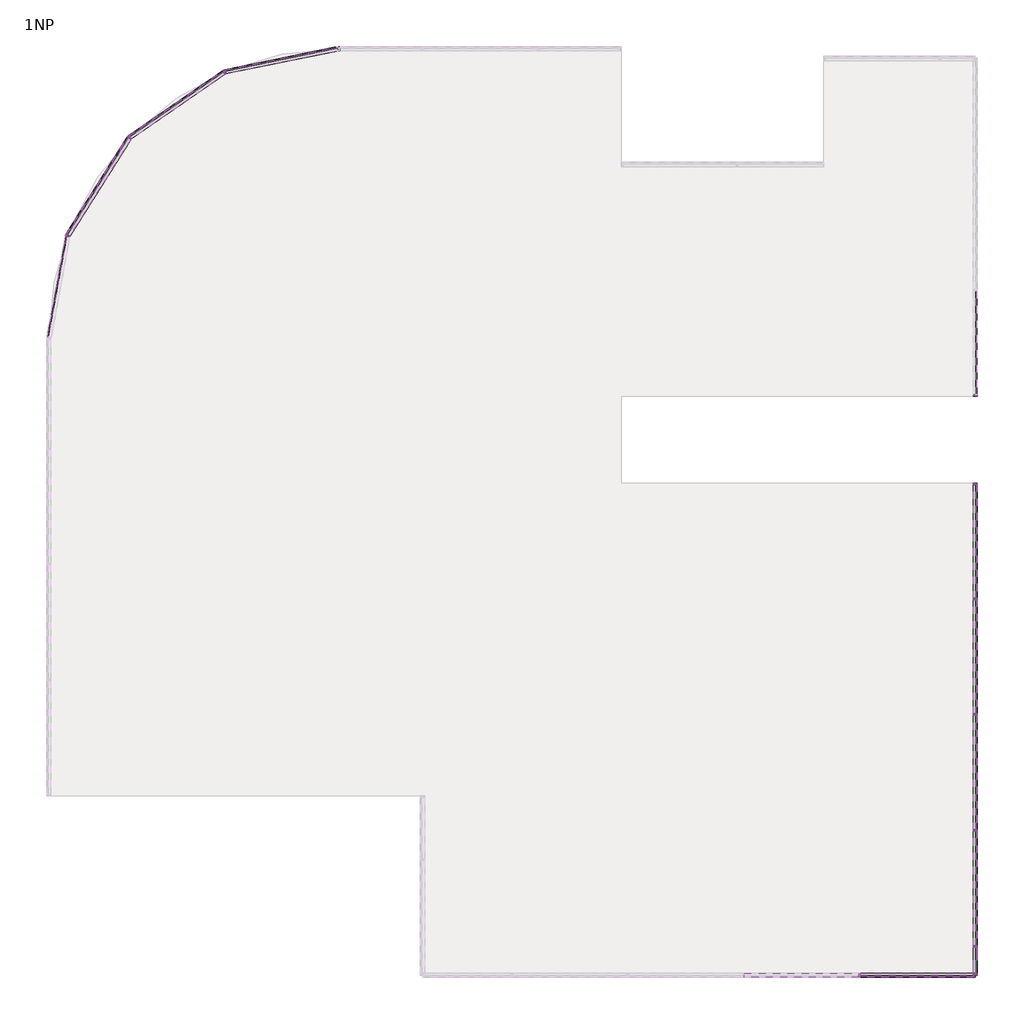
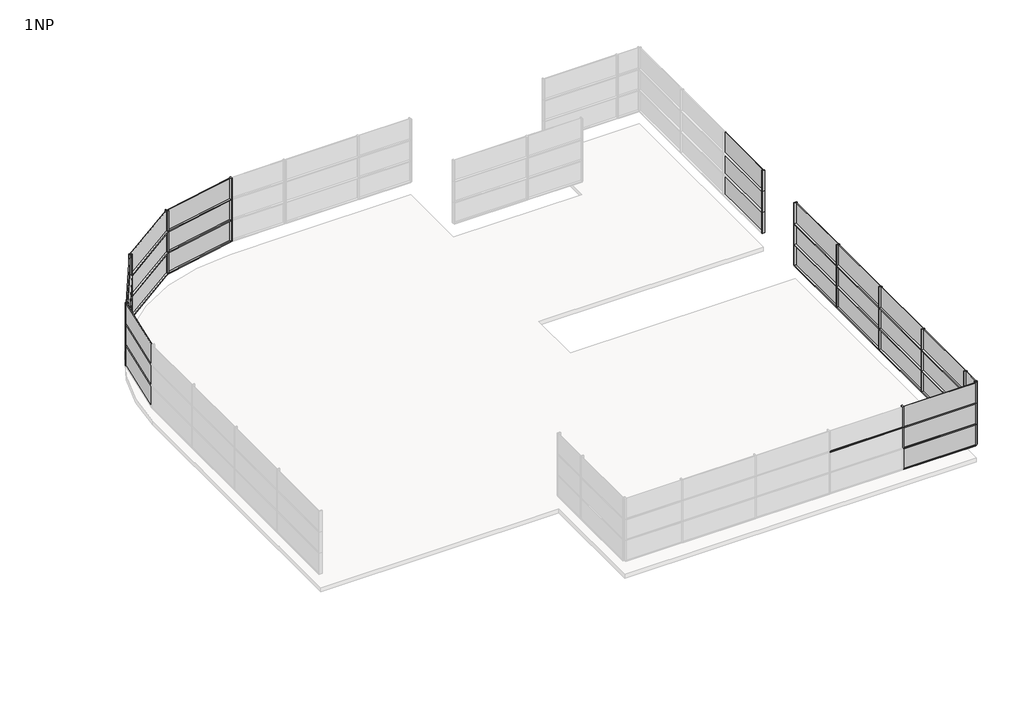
# One storey, part 2 of 3: 66 members, 33 plates.
"""IFC4 building model written with IfcOpenShell, lengths in millimetres."""

from ifc_helpers import new_model, si_unit, origin, place, context, project, spatial, transform, mapped, element, save
from components import rectangular_mullion_50_x_150mm_d99dc9be, rectangular_mullion_50_x_150mm_6588f46c, rectangular_mullion_50_x_150mm_a037c29c, rectangular_mullion_50_x_150mm_c2546fd4, rectangular_mullion_50_x_150mm_116cff39, rectangular_mullion_50_x_150mm_99029072, rectangular_mullion_50_x_150mm_662445cf, system_panel_glazed_8e9402eb, system_panel_glazed_89ac83a7, system_panel_glazed_5566c609, system_panel_glazed_8c18451d, system_panel_glazed_f47374c1, system_panel_glazed_c3dc520e, system_panel_glazed_01c601c5

model = new_model("IFC4")

# Units and contexts
model_context = context("Model", 3, world=origin())
ifc_project = project(units=[si_unit("LENGTHUNIT", "METRE", prefix="MILLI")], contexts=[model_context])

# Site, building, storey
site = spatial("IfcSite", under=ifc_project)
building = spatial("IfcBuilding", under=site)
storey = spatial("IfcBuildingStorey", under=building, Name="1NP", Elevation=4000.0)

# Members
placement = place(None, origin())
rectangular_mullion_50_x_150mm_shape = rectangular_mullion_50_x_150mm_d99dc9be(model_context)
element("IfcMember", 1, ObjectType="Rectangular Mullion : 50 x 150mm", at=placement, inside=storey, context=model_context, shape_type="MappedRepresentation", body=[
    mapped(rectangular_mullion_50_x_150mm_shape, transform((13503.2660975, -10624.0160434, 6000.0), x_axis=(0.0, -1.0, 0.0), y_axis=(1.0, 0.0, 0.0), z_axis=(0.0, 0.0, 1.0))),
])
element("IfcMember", 2, ObjectType="Rectangular Mullion : 50 x 150mm", at=placement, inside=storey, context=model_context, shape_type="MappedRepresentation", body=[
    mapped(rectangular_mullion_50_x_150mm_shape, transform((13503.2660975, -10624.0160434, 7200.0), x_axis=(0.0, -1.0, 0.0), y_axis=(1.0, 0.0, 0.0), z_axis=(0.0, 0.0, 1.0))),
])
element("IfcMember", 3, ObjectType="Rectangular Mullion : 50 x 150mm", at=placement, inside=storey, context=model_context, shape_type="MappedRepresentation", body=[
    mapped(rectangular_mullion_50_x_150mm_shape, transform((13503.2660975, -10624.0160434, 8400.0), x_axis=(0.0, -1.0, 0.0), y_axis=(1.0, 0.0, 0.0), z_axis=(0.0, 0.0, 1.0))),
])
element("IfcMember", 4, ObjectType="Rectangular Mullion : 50 x 150mm", at=placement, inside=storey, context=model_context, shape_type="MappedRepresentation", body=[
    mapped(rectangular_mullion_50_x_150mm_shape, transform((13503.2660975, -14624.0160434, 6000.0), x_axis=(0.0, -1.0, 0.0), y_axis=(1.0, 0.0, 0.0), z_axis=(0.0, 0.0, 1.0))),
])
element("IfcMember", 5, ObjectType="Rectangular Mullion : 50 x 150mm", at=placement, inside=storey, context=model_context, shape_type="MappedRepresentation", body=[
    mapped(rectangular_mullion_50_x_150mm_shape, transform((13503.2660975, -14624.0160434, 7200.0), x_axis=(0.0, -1.0, 0.0), y_axis=(1.0, 0.0, 0.0), z_axis=(0.0, 0.0, 1.0))),
])
element("IfcMember", 6, ObjectType="Rectangular Mullion : 50 x 150mm", at=placement, inside=storey, context=model_context, shape_type="MappedRepresentation", body=[
    mapped(rectangular_mullion_50_x_150mm_shape, transform((13503.2660975, -14624.0160434, 8400.0), x_axis=(0.0, -1.0, 0.0), y_axis=(1.0, 0.0, 0.0), z_axis=(0.0, 0.0, 1.0))),
])
element("IfcMember", 7, ObjectType="Rectangular Mullion : 50 x 150mm", at=placement, inside=storey, context=model_context, shape_type="MappedRepresentation", body=[
    mapped(rectangular_mullion_50_x_150mm_shape, transform((13503.2660975, -18624.0160434, 6000.0), x_axis=(0.0, -1.0, 0.0), y_axis=(1.0, 0.0, 0.0), z_axis=(0.0, 0.0, 1.0))),
])
element("IfcMember", 8, ObjectType="Rectangular Mullion : 50 x 150mm", at=placement, inside=storey, context=model_context, shape_type="MappedRepresentation", body=[
    mapped(rectangular_mullion_50_x_150mm_shape, transform((13503.2660975, -18624.0160434, 7200.0), x_axis=(0.0, -1.0, 0.0), y_axis=(1.0, 0.0, 0.0), z_axis=(0.0, 0.0, 1.0))),
])
element("IfcMember", 9, ObjectType="Rectangular Mullion : 50 x 150mm", at=placement, inside=storey, context=model_context, shape_type="MappedRepresentation", body=[
    mapped(rectangular_mullion_50_x_150mm_shape, transform((13503.2660975, -18624.0160434, 8400.0), x_axis=(0.0, -1.0, 0.0), y_axis=(1.0, 0.0, 0.0), z_axis=(0.0, 0.0, 1.0))),
])
element("IfcMember", 10, ObjectType="Rectangular Mullion : 50 x 150mm", at=placement, inside=storey, context=model_context, shape_type="MappedRepresentation", body=[
    mapped(rectangular_mullion_50_x_150mm_shape, transform((13503.2660975, -22624.0160434, 6000.0), x_axis=(0.0, -1.0, 0.0), y_axis=(1.0, 0.0, 0.0), z_axis=(0.0, 0.0, 1.0))),
])
element("IfcMember", 11, ObjectType="Rectangular Mullion : 50 x 150mm", at=placement, inside=storey, context=model_context, shape_type="MappedRepresentation", body=[
    mapped(rectangular_mullion_50_x_150mm_shape, transform((13503.2660975, -22624.0160434, 7200.0), x_axis=(0.0, -1.0, 0.0), y_axis=(1.0, 0.0, 0.0), z_axis=(0.0, 0.0, 1.0))),
])
element("IfcMember", 12, ObjectType="Rectangular Mullion : 50 x 150mm", at=placement, inside=storey, context=model_context, shape_type="MappedRepresentation", body=[
    mapped(rectangular_mullion_50_x_150mm_shape, transform((13503.2660975, -22624.0160434, 8400.0), x_axis=(0.0, -1.0, 0.0), y_axis=(1.0, 0.0, 0.0), z_axis=(0.0, 0.0, 1.0))),
])
element("IfcMember", 13, ObjectType="Rectangular Mullion : 50 x 150mm", at=placement, inside=storey, context=model_context, shape_type="MappedRepresentation", body=[
    mapped(rectangular_mullion_50_x_150mm_shape, transform((9503.2660975, -23624.0160434, 7200.0), x_axis=(-1.0, 0.0, 0.0), y_axis=(0.0, -1.0, 0.0), z_axis=(0.0, 0.0, 1.0))),
])
element("IfcMember", 14, ObjectType="Rectangular Mullion : 50 x 150mm", at=placement, inside=storey, context=model_context, shape_type="MappedRepresentation", body=[
    mapped(rectangular_mullion_50_x_150mm_shape, transform((9503.2660975, -23624.0160434, 8400.0), x_axis=(-1.0, 0.0, 0.0), y_axis=(0.0, -1.0, 0.0), z_axis=(0.0, 0.0, 1.0))),
])
rectangular_mullion_50_x_150mm_2_shape = rectangular_mullion_50_x_150mm_6588f46c(model_context)
element("IfcMember", 15, ObjectType="Rectangular Mullion : 50 x 150mm", at=placement, inside=storey, context=model_context, shape_type="MappedRepresentation", body=[
    mapped(rectangular_mullion_50_x_150mm_2_shape, transform((13503.2660975, -3624.0160434, 8400.0), x_axis=(0.0, -1.0, 0.0), y_axis=(1.0, 0.0, 0.0), z_axis=(0.0, 0.0, 1.0))),
])
element("IfcMember", 16, ObjectType="Rectangular Mullion : 50 x 150mm", at=placement, inside=storey, context=model_context, shape_type="MappedRepresentation", body=[
    mapped(rectangular_mullion_50_x_150mm_2_shape, transform((13503.2660975, -3624.0160434, 7200.0), x_axis=(0.0, -1.0, 0.0), y_axis=(1.0, 0.0, 0.0), z_axis=(0.0, 0.0, 1.0))),
])
element("IfcMember", 17, ObjectType="Rectangular Mullion : 50 x 150mm", at=placement, inside=storey, context=model_context, shape_type="MappedRepresentation", body=[
    mapped(rectangular_mullion_50_x_150mm_2_shape, transform((13503.2660975, -3624.0160434, 6000.0), x_axis=(0.0, -1.0, 0.0), y_axis=(1.0, 0.0, 0.0), z_axis=(0.0, 0.0, 1.0))),
])
element("IfcMember", 18, ObjectType="Rectangular Mullion : 50 x 150mm", at=placement, inside=storey, context=model_context, shape_type="MappedRepresentation", body=[
    mapped(rectangular_mullion_50_x_150mm_2_shape, transform((13503.2660975, -23624.0160434, 6000.0), x_axis=(0.0, -1.0, 0.0), y_axis=(1.0, 0.0, 0.0), z_axis=(0.0, 0.0, 1.0))),
])
element("IfcMember", 19, ObjectType="Rectangular Mullion : 50 x 150mm", at=placement, inside=storey, context=model_context, shape_type="MappedRepresentation", body=[
    mapped(rectangular_mullion_50_x_150mm_2_shape, transform((13503.2660975, -23624.0160434, 7200.0), x_axis=(0.0, -1.0, 0.0), y_axis=(1.0, 0.0, 0.0), z_axis=(0.0, 0.0, 1.0))),
])
element("IfcMember", 20, ObjectType="Rectangular Mullion : 50 x 150mm", at=placement, inside=storey, context=model_context, shape_type="MappedRepresentation", body=[
    mapped(rectangular_mullion_50_x_150mm_2_shape, transform((13503.2660975, -23624.0160434, 8400.0), x_axis=(0.0, -1.0, 0.0), y_axis=(1.0, 0.0, 0.0), z_axis=(0.0, 0.0, 1.0))),
])
rectangular_mullion_50_x_150mm_3_shape = rectangular_mullion_50_x_150mm_a037c29c(model_context)
element("IfcMember", 21, ObjectType="Rectangular Mullion : 50 x 150mm", at=placement, inside=storey, context=model_context, shape_type="MappedRepresentation", body=[
    mapped(rectangular_mullion_50_x_150mm_3_shape, transform((13503.2660975, -18649.0160434, 6000.0), x_axis=(0.0, 0.0, 1.0), y_axis=(1.0, 0.0, 0.0), z_axis=(0.0, 1.0, 0.0))),
])
element("IfcMember", 22, ObjectType="Rectangular Mullion : 50 x 150mm", at=placement, inside=storey, context=model_context, shape_type="MappedRepresentation", body=[
    mapped(rectangular_mullion_50_x_150mm_3_shape, transform((13503.2660975, -10649.0160434, 7200.0), x_axis=(0.0, 0.0, 1.0), y_axis=(1.0, 0.0, 0.0), z_axis=(0.0, 1.0, 0.0))),
])
element("IfcMember", 23, ObjectType="Rectangular Mullion : 50 x 150mm", at=placement, inside=storey, context=model_context, shape_type="MappedRepresentation", body=[
    mapped(rectangular_mullion_50_x_150mm_3_shape, transform((13503.2660975, -14649.0160434, 7200.0), x_axis=(0.0, 0.0, 1.0), y_axis=(1.0, 0.0, 0.0), z_axis=(0.0, 1.0, 0.0))),
])
element("IfcMember", 24, ObjectType="Rectangular Mullion : 50 x 150mm", at=placement, inside=storey, context=model_context, shape_type="MappedRepresentation", body=[
    mapped(rectangular_mullion_50_x_150mm_3_shape, transform((13503.2660975, -18649.0160434, 7200.0), x_axis=(0.0, 0.0, 1.0), y_axis=(1.0, 0.0, 0.0), z_axis=(0.0, 1.0, 0.0))),
])
element("IfcMember", 25, ObjectType="Rectangular Mullion : 50 x 150mm", at=placement, inside=storey, context=model_context, shape_type="MappedRepresentation", body=[
    mapped(rectangular_mullion_50_x_150mm_3_shape, transform((13503.2660975, -10649.0160434, 4800.0), x_axis=(0.0, 0.0, 1.0), y_axis=(1.0, 0.0, 0.0), z_axis=(0.0, 1.0, 0.0))),
])
element("IfcMember", 26, ObjectType="Rectangular Mullion : 50 x 150mm", at=placement, inside=storey, context=model_context, shape_type="MappedRepresentation", body=[
    mapped(rectangular_mullion_50_x_150mm_3_shape, transform((13503.2660975, -14649.0160434, 4800.0), x_axis=(0.0, 0.0, 1.0), y_axis=(1.0, 0.0, 0.0), z_axis=(0.0, 1.0, 0.0))),
])
element("IfcMember", 27, ObjectType="Rectangular Mullion : 50 x 150mm", at=placement, inside=storey, context=model_context, shape_type="MappedRepresentation", body=[
    mapped(rectangular_mullion_50_x_150mm_3_shape, transform((13503.2660975, -18649.0160434, 4800.0), x_axis=(0.0, 0.0, 1.0), y_axis=(1.0, 0.0, 0.0), z_axis=(0.0, 1.0, 0.0))),
])
element("IfcMember", 28, ObjectType="Rectangular Mullion : 50 x 150mm", at=placement, inside=storey, context=model_context, shape_type="MappedRepresentation", body=[
    mapped(rectangular_mullion_50_x_150mm_3_shape, transform((13503.2660975, -10649.0160434, 6000.0), x_axis=(0.0, 0.0, 1.0), y_axis=(1.0, 0.0, 0.0), z_axis=(0.0, 1.0, 0.0))),
])
element("IfcMember", 29, ObjectType="Rectangular Mullion : 50 x 150mm", at=placement, inside=storey, context=model_context, shape_type="MappedRepresentation", body=[
    mapped(rectangular_mullion_50_x_150mm_3_shape, transform((13503.2660975, -14649.0160434, 6000.0), x_axis=(0.0, 0.0, 1.0), y_axis=(1.0, 0.0, 0.0), z_axis=(0.0, 1.0, 0.0))),
])
element("IfcMember", 30, ObjectType="Rectangular Mullion : 50 x 150mm", at=placement, inside=storey, context=model_context, shape_type="MappedRepresentation", body=[
    mapped(rectangular_mullion_50_x_150mm_3_shape, transform((9478.2660975, -23624.0160434, 7200.0), x_axis=(0.0, 0.0, 1.0), y_axis=(0.0, -1.0, 0.0), z_axis=(1.0, 0.0, 0.0))),
])
rectangular_mullion_50_x_150mm_4_shape = rectangular_mullion_50_x_150mm_c2546fd4(model_context)
element("IfcMember", 31, ObjectType="Rectangular Mullion : 50 x 150mm", at=placement, inside=storey, context=model_context, shape_type="MappedRepresentation", body=[
    mapped(rectangular_mullion_50_x_150mm_4_shape, transform((13503.2660975, -6674.0160434, 7200.0), x_axis=(0.0, 0.0, 1.0), y_axis=(1.0, 0.0, 0.0), z_axis=(0.0, 1.0, 0.0))),
])
element("IfcMember", 32, ObjectType="Rectangular Mullion : 50 x 150mm", at=placement, inside=storey, context=model_context, shape_type="MappedRepresentation", body=[
    mapped(rectangular_mullion_50_x_150mm_4_shape, transform((13503.2660975, -6674.0160434, 4800.0), x_axis=(0.0, 0.0, 1.0), y_axis=(1.0, 0.0, 0.0), z_axis=(0.0, 1.0, 0.0))),
])
element("IfcMember", 33, ObjectType="Rectangular Mullion : 50 x 150mm", at=placement, inside=storey, context=model_context, shape_type="MappedRepresentation", body=[
    mapped(rectangular_mullion_50_x_150mm_4_shape, transform((13503.2660975, -6674.0160434, 6000.0), x_axis=(0.0, 0.0, 1.0), y_axis=(1.0, 0.0, 0.0), z_axis=(0.0, 1.0, 0.0))),
])
element("IfcMember", 34, ObjectType="Rectangular Mullion : 50 x 150mm", at=placement, inside=storey, context=model_context, shape_type="MappedRepresentation", body=[
    mapped(rectangular_mullion_50_x_150mm_4_shape, transform((13453.2660975, -23624.0160434, 4800.0), x_axis=(0.0, 0.0, 1.0), y_axis=(0.0, -1.0, 0.0), z_axis=(1.0, 0.0, 0.0))),
])
element("IfcMember", 35, ObjectType="Rectangular Mullion : 50 x 150mm", at=placement, inside=storey, context=model_context, shape_type="MappedRepresentation", body=[
    mapped(rectangular_mullion_50_x_150mm_4_shape, transform((13453.2660975, -23624.0160434, 6000.0), x_axis=(0.0, 0.0, 1.0), y_axis=(0.0, -1.0, 0.0), z_axis=(1.0, 0.0, 0.0))),
])
element("IfcMember", 36, ObjectType="Rectangular Mullion : 50 x 150mm", at=placement, inside=storey, context=model_context, shape_type="MappedRepresentation", body=[
    mapped(rectangular_mullion_50_x_150mm_4_shape, transform((13453.2660975, -23624.0160434, 7200.0), x_axis=(0.0, 0.0, 1.0), y_axis=(0.0, -1.0, 0.0), z_axis=(1.0, 0.0, 0.0))),
])
element("IfcMember", 37, ObjectType="Rectangular Mullion : 50 x 150mm", at=placement, inside=storey, context=model_context, shape_type="MappedRepresentation", body=[
    mapped(rectangular_mullion_50_x_150mm_2_shape, transform((13503.2660975, -6624.0160434, 4800.0), x_axis=(0.0, 1.0, 0.0), y_axis=(1.0, 0.0, 0.0), z_axis=(0.0, 0.0, -1.0))),
])
element("IfcMember", 38, ObjectType="Rectangular Mullion : 50 x 150mm", at=placement, inside=storey, context=model_context, shape_type="MappedRepresentation", body=[
    mapped(rectangular_mullion_50_x_150mm_2_shape, transform((13503.2660975, -6624.0160434, 6000.0), x_axis=(0.0, 1.0, 0.0), y_axis=(1.0, 0.0, 0.0), z_axis=(0.0, 0.0, -1.0))),
])
element("IfcMember", 39, ObjectType="Rectangular Mullion : 50 x 150mm", at=placement, inside=storey, context=model_context, shape_type="MappedRepresentation", body=[
    mapped(rectangular_mullion_50_x_150mm_2_shape, transform((13503.2660975, -6624.0160434, 7200.0), x_axis=(0.0, 1.0, 0.0), y_axis=(1.0, 0.0, 0.0), z_axis=(0.0, 0.0, -1.0))),
])
element("IfcMember", 40, ObjectType="Rectangular Mullion : 50 x 150mm", at=placement, inside=storey, context=model_context, shape_type="MappedRepresentation", body=[
    mapped(rectangular_mullion_50_x_150mm_2_shape, transform((13503.2660975, -23624.0160434, 4800.0), x_axis=(1.0, 0.0, 0.0), y_axis=(0.0, -1.0, 0.0), z_axis=(0.0, 0.0, -1.0))),
])
element("IfcMember", 41, ObjectType="Rectangular Mullion : 50 x 150mm", at=placement, inside=storey, context=model_context, shape_type="MappedRepresentation", body=[
    mapped(rectangular_mullion_50_x_150mm_2_shape, transform((13503.2660975, -23624.0160434, 6000.0), x_axis=(1.0, 0.0, 0.0), y_axis=(0.0, -1.0, 0.0), z_axis=(0.0, 0.0, -1.0))),
])
element("IfcMember", 42, ObjectType="Rectangular Mullion : 50 x 150mm", at=placement, inside=storey, context=model_context, shape_type="MappedRepresentation", body=[
    mapped(rectangular_mullion_50_x_150mm_2_shape, transform((13503.2660975, -23624.0160434, 7200.0), x_axis=(1.0, 0.0, 0.0), y_axis=(0.0, -1.0, 0.0), z_axis=(0.0, 0.0, -1.0))),
])
element("IfcMember", 43, ObjectType="Rectangular Mullion : 50 x 150mm", at=placement, inside=storey, context=model_context, shape_type="MappedRepresentation", body=[
    mapped(rectangular_mullion_50_x_150mm_2_shape, transform((-8496.7339025, 8375.9839566, 4800.0), x_axis=(-1.0, 0.0, 0.0), y_axis=(0.0, 1.0, 0.0), z_axis=(0.0, 0.0, -1.0))),
])
element("IfcMember", 44, ObjectType="Rectangular Mullion : 50 x 150mm", at=placement, inside=storey, context=model_context, shape_type="MappedRepresentation", body=[
    mapped(rectangular_mullion_50_x_150mm_2_shape, transform((-8496.7339025, 8375.9839566, 6000.0), x_axis=(-1.0, 0.0, 0.0), y_axis=(0.0, 1.0, 0.0), z_axis=(0.0, 0.0, -1.0))),
])
element("IfcMember", 45, ObjectType="Rectangular Mullion : 50 x 150mm", at=placement, inside=storey, context=model_context, shape_type="MappedRepresentation", body=[
    mapped(rectangular_mullion_50_x_150mm_2_shape, transform((-8496.7339025, 8375.9839566, 7200.0), x_axis=(-1.0, 0.0, 0.0), y_axis=(0.0, 1.0, 0.0), z_axis=(0.0, 0.0, -1.0))),
])
rectangular_mullion_50_x_150mm_5_shape = rectangular_mullion_50_x_150mm_116cff39(model_context)
element("IfcMember", 46, ObjectType="Rectangular Mullion : 50 x 150mm", at=placement, inside=storey, context=model_context, shape_type="MappedRepresentation", body=[
    mapped(rectangular_mullion_50_x_150mm_5_shape, transform((13503.2660975, -22649.0160434, 6000.0), x_axis=(0.0, 0.0, 1.0), y_axis=(1.0, 0.0, 0.0), z_axis=(0.0, 1.0, 0.0))),
])
element("IfcMember", 47, ObjectType="Rectangular Mullion : 50 x 150mm", at=placement, inside=storey, context=model_context, shape_type="MappedRepresentation", body=[
    mapped(rectangular_mullion_50_x_150mm_5_shape, transform((13503.2660975, -22649.0160434, 7200.0), x_axis=(0.0, 0.0, 1.0), y_axis=(1.0, 0.0, 0.0), z_axis=(0.0, 1.0, 0.0))),
])
element("IfcMember", 48, ObjectType="Rectangular Mullion : 50 x 150mm", at=placement, inside=storey, context=model_context, shape_type="MappedRepresentation", body=[
    mapped(rectangular_mullion_50_x_150mm_5_shape, transform((13503.2660975, -22649.0160434, 4800.0), x_axis=(0.0, 0.0, 1.0), y_axis=(1.0, 0.0, 0.0), z_axis=(0.0, 1.0, 0.0))),
])
rectangular_mullion_50_x_150mm_6_shape = rectangular_mullion_50_x_150mm_99029072(model_context)
element("IfcMember", 49, ObjectType="Rectangular Mullion : 50 x 150mm", at=placement, inside=storey, context=model_context, shape_type="MappedRepresentation", body=[
    mapped(rectangular_mullion_50_x_150mm_6_shape, transform((-15687.4559914, 5318.1839566, 4800.0), x_axis=(0.0, 0.0, 1.0), y_axis=(-0.5680000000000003, 0.8230285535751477, 0.0), z_axis=(-0.8230285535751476, -0.5680000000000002, 0.0))),
])
element("IfcMember", 50, ObjectType="Rectangular Mullion : 50 x 150mm", at=placement, inside=storey, context=model_context, shape_type="MappedRepresentation", body=[
    mapped(rectangular_mullion_50_x_150mm_6_shape, transform((-17832.9738551, 1944.6319566, 4800.0), x_axis=(0.0, 0.0, 1.0), y_axis=(-0.84512, 0.534576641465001, 0.0), z_axis=(-0.534576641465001, -0.84512, 0.0))),
])
element("IfcMember", 51, ObjectType="Rectangular Mullion : 50 x 150mm", at=placement, inside=storey, context=model_context, shape_type="MappedRepresentation", body=[
    mapped(rectangular_mullion_50_x_150mm_6_shape, transform((-15687.4559914, 5318.1839566, 6000.0), x_axis=(0.0, 0.0, 1.0), y_axis=(-0.5680000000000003, 0.8230285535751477, 0.0), z_axis=(-0.8230285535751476, -0.5680000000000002, 0.0))),
])
element("IfcMember", 52, ObjectType="Rectangular Mullion : 50 x 150mm", at=placement, inside=storey, context=model_context, shape_type="MappedRepresentation", body=[
    mapped(rectangular_mullion_50_x_150mm_6_shape, transform((-17832.9738551, 1944.6319566, 6000.0), x_axis=(0.0, 0.0, 1.0), y_axis=(-0.84512, 0.534576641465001, 0.0), z_axis=(-0.534576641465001, -0.84512, 0.0))),
])
element("IfcMember", 53, ObjectType="Rectangular Mullion : 50 x 150mm", at=placement, inside=storey, context=model_context, shape_type="MappedRepresentation", body=[
    mapped(rectangular_mullion_50_x_150mm_6_shape, transform((-15687.4559914, 5318.1839566, 7200.0), x_axis=(0.0, 0.0, 1.0), y_axis=(-0.5680000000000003, 0.8230285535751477, 0.0), z_axis=(-0.8230285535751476, -0.5680000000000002, 0.0))),
])
element("IfcMember", 54, ObjectType="Rectangular Mullion : 50 x 150mm", at=placement, inside=storey, context=model_context, shape_type="MappedRepresentation", body=[
    mapped(rectangular_mullion_50_x_150mm_6_shape, transform((-17832.9738551, 1944.6319566, 7200.0), x_axis=(0.0, 0.0, 1.0), y_axis=(-0.84512, 0.534576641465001, 0.0), z_axis=(-0.534576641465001, -0.84512, 0.0))),
])
rectangular_mullion_50_x_150mm_7_shape = rectangular_mullion_50_x_150mm_662445cf(model_context)
element("IfcMember", 55, ObjectType="Rectangular Mullion : 50 x 150mm", at=placement, inside=storey, context=model_context, shape_type="MappedRepresentation", body=[
    mapped(rectangular_mullion_50_x_150mm_7_shape, transform((-12391.4225935, 7580.9839566, 4800.0), x_axis=(0.0, 0.0, 1.0), y_axis=(-0.19999999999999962, 0.9797958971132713, 0.0), z_axis=(-0.9797958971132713, -0.19999999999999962, 0.0))),
])
element("IfcMember", 56, ObjectType="Rectangular Mullion : 50 x 150mm", at=placement, inside=storey, context=model_context, shape_type="MappedRepresentation", body=[
    mapped(rectangular_mullion_50_x_150mm_7_shape, transform((-12391.4225935, 7580.9839566, 6000.0), x_axis=(0.0, 0.0, 1.0), y_axis=(-0.19999999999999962, 0.9797958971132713, 0.0), z_axis=(-0.9797958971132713, -0.19999999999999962, 0.0))),
])
element("IfcMember", 57, ObjectType="Rectangular Mullion : 50 x 150mm", at=placement, inside=storey, context=model_context, shape_type="MappedRepresentation", body=[
    mapped(rectangular_mullion_50_x_150mm_7_shape, transform((-12391.4225935, 7580.9839566, 7200.0), x_axis=(0.0, 0.0, 1.0), y_axis=(-0.19999999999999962, 0.9797958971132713, 0.0), z_axis=(-0.9797958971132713, -0.19999999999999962, 0.0))),
])
element("IfcMember", 58, ObjectType="Rectangular Mullion : 50 x 150mm", at=placement, inside=storey, context=model_context, shape_type="MappedRepresentation", body=[
    mapped(rectangular_mullion_50_x_150mm_shape, transform((-12415.9174909, 7575.9839566, 4800.0), x_axis=(-0.92, -0.3919183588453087, 0.0), y_axis=(-0.3919183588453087, 0.92, 0.0), z_axis=(0.0, 0.0, -1.0))),
])
element("IfcMember", 59, ObjectType="Rectangular Mullion : 50 x 150mm", at=placement, inside=storey, context=model_context, shape_type="MappedRepresentation", body=[
    mapped(rectangular_mullion_50_x_150mm_shape, transform((-12415.9174909, 7575.9839566, 6000.0), x_axis=(-0.92, -0.3919183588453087, 0.0), y_axis=(-0.3919183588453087, 0.92, 0.0), z_axis=(0.0, 0.0, -1.0))),
])
element("IfcMember", 60, ObjectType="Rectangular Mullion : 50 x 150mm", at=placement, inside=storey, context=model_context, shape_type="MappedRepresentation", body=[
    mapped(rectangular_mullion_50_x_150mm_shape, transform((-12415.9174909, 7575.9839566, 7200.0), x_axis=(-0.92, -0.3919183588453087, 0.0), y_axis=(-0.3919183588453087, 0.92, 0.0), z_axis=(0.0, 0.0, -1.0))),
])
element("IfcMember", 61, ObjectType="Rectangular Mullion : 50 x 150mm", at=placement, inside=storey, context=model_context, shape_type="MappedRepresentation", body=[
    mapped(rectangular_mullion_50_x_150mm_shape, transform((-15708.0317052, 5303.9839566, 4800.0), x_axis=(-0.6927999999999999, -0.7211297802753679, 0.0), y_axis=(-0.7211297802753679, 0.6927999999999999, 0.0), z_axis=(0.0, 0.0, -1.0))),
])
element("IfcMember", 62, ObjectType="Rectangular Mullion : 50 x 150mm", at=placement, inside=storey, context=model_context, shape_type="MappedRepresentation", body=[
    mapped(rectangular_mullion_50_x_150mm_shape, transform((-15708.0317052, 5303.9839566, 6000.0), x_axis=(-0.6927999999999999, -0.7211297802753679, 0.0), y_axis=(-0.7211297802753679, 0.6927999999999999, 0.0), z_axis=(0.0, 0.0, -1.0))),
])
element("IfcMember", 63, ObjectType="Rectangular Mullion : 50 x 150mm", at=placement, inside=storey, context=model_context, shape_type="MappedRepresentation", body=[
    mapped(rectangular_mullion_50_x_150mm_shape, transform((-15708.0317052, 5303.9839566, 7200.0), x_axis=(-0.6927999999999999, -0.7211297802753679, 0.0), y_axis=(-0.7211297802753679, 0.6927999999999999, 0.0), z_axis=(0.0, 0.0, -1.0))),
])
element("IfcMember", 64, ObjectType="Rectangular Mullion : 50 x 150mm", at=placement, inside=storey, context=model_context, shape_type="MappedRepresentation", body=[
    mapped(rectangular_mullion_50_x_150mm_shape, transform((-17846.3382711, 1923.5039566, 4800.0), x_axis=(-0.35475199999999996, -0.934960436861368, 0.0), y_axis=(-0.934960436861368, 0.35475199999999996, 0.0), z_axis=(0.0, 0.0, -1.0))),
])
element("IfcMember", 65, ObjectType="Rectangular Mullion : 50 x 150mm", at=placement, inside=storey, context=model_context, shape_type="MappedRepresentation", body=[
    mapped(rectangular_mullion_50_x_150mm_shape, transform((-17846.3382711, 1923.5039566, 6000.0), x_axis=(-0.35475199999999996, -0.934960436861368, 0.0), y_axis=(-0.934960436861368, 0.35475199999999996, 0.0), z_axis=(0.0, 0.0, -1.0))),
])
element("IfcMember", 66, ObjectType="Rectangular Mullion : 50 x 150mm", at=placement, inside=storey, context=model_context, shape_type="MappedRepresentation", body=[
    mapped(rectangular_mullion_50_x_150mm_shape, transform((-17846.3382711, 1923.5039566, 7200.0), x_axis=(-0.35475199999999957, -0.9349604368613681, 0.0), y_axis=(-0.9349604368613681, 0.35475199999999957, 0.0), z_axis=(0.0, 0.0, -1.0))),
])

# Plates
system_panel_glazed_shape = system_panel_glazed_8e9402eb(model_context)
element("IfcPlate", 67, ObjectType="System Panel : Glazed", at=placement, inside=storey, context=model_context, shape_type="MappedRepresentation", body=[
    mapped(system_panel_glazed_shape, transform((11490.7660975, -23624.0160434, 4825.0), x_axis=(-1.0, 0.0, 0.0), y_axis=(0.0, -1.0, 0.0), z_axis=(0.0, 0.0, 1.0))),
])
element("IfcPlate", 68, ObjectType="System Panel : Glazed", at=placement, inside=storey, context=model_context, shape_type="MappedRepresentation", body=[
    mapped(system_panel_glazed_shape, transform((11490.7660975, -23624.0160434, 6025.0), x_axis=(-1.0, 0.0, 0.0), y_axis=(0.0, -1.0, 0.0), z_axis=(0.0, 0.0, 1.0))),
])
element("IfcPlate", 69, ObjectType="System Panel : Glazed", at=placement, inside=storey, context=model_context, shape_type="MappedRepresentation", body=[
    mapped(system_panel_glazed_shape, transform((11490.7660975, -23624.0160434, 7225.0), x_axis=(-1.0, 0.0, 0.0), y_axis=(0.0, -1.0, 0.0), z_axis=(0.0, 0.0, 1.0))),
])
element("IfcPlate", 70, ObjectType="System Panel : Glazed", at=placement, inside=storey, context=model_context, shape_type="MappedRepresentation", body=[
    mapped(system_panel_glazed_shape, transform((13503.2660975, -8636.5160434, 4825.0), x_axis=(0.0, -1.0, 0.0), y_axis=(1.0, 0.0, 0.0), z_axis=(0.0, 0.0, 1.0))),
])
element("IfcPlate", 71, ObjectType="System Panel : Glazed", at=placement, inside=storey, context=model_context, shape_type="MappedRepresentation", body=[
    mapped(system_panel_glazed_shape, transform((13503.2660975, -8636.5160434, 6025.0), x_axis=(0.0, -1.0, 0.0), y_axis=(1.0, 0.0, 0.0), z_axis=(0.0, 0.0, 1.0))),
])
element("IfcPlate", 72, ObjectType="System Panel : Glazed", at=placement, inside=storey, context=model_context, shape_type="MappedRepresentation", body=[
    mapped(system_panel_glazed_shape, transform((13503.2660975, -8636.5160434, 7225.0), x_axis=(0.0, -1.0, 0.0), y_axis=(1.0, 0.0, 0.0), z_axis=(0.0, 0.0, 1.0))),
])
system_panel_glazed_2_shape = system_panel_glazed_89ac83a7(model_context)
element("IfcPlate", 73, ObjectType="System Panel : Glazed", at=placement, inside=storey, context=model_context, shape_type="MappedRepresentation", body=[
    mapped(system_panel_glazed_2_shape, transform((13503.2660975, -12624.0160434, 4825.0), x_axis=(0.0, -1.0, 0.0), y_axis=(1.0, 0.0, 0.0), z_axis=(0.0, 0.0, 1.0))),
])
element("IfcPlate", 74, ObjectType="System Panel : Glazed", at=placement, inside=storey, context=model_context, shape_type="MappedRepresentation", body=[
    mapped(system_panel_glazed_2_shape, transform((13503.2660975, -16624.0160434, 4825.0), x_axis=(0.0, -1.0, 0.0), y_axis=(1.0, 0.0, 0.0), z_axis=(0.0, 0.0, 1.0))),
])
element("IfcPlate", 75, ObjectType="System Panel : Glazed", at=placement, inside=storey, context=model_context, shape_type="MappedRepresentation", body=[
    mapped(system_panel_glazed_2_shape, transform((13503.2660975, -20624.0160434, 4825.0), x_axis=(0.0, -1.0, 0.0), y_axis=(1.0, 0.0, 0.0), z_axis=(0.0, 0.0, 1.0))),
])
element("IfcPlate", 76, ObjectType="System Panel : Glazed", at=placement, inside=storey, context=model_context, shape_type="MappedRepresentation", body=[
    mapped(system_panel_glazed_2_shape, transform((13503.2660975, -12624.0160434, 6025.0), x_axis=(0.0, -1.0, 0.0), y_axis=(1.0, 0.0, 0.0), z_axis=(0.0, 0.0, 1.0))),
])
element("IfcPlate", 77, ObjectType="System Panel : Glazed", at=placement, inside=storey, context=model_context, shape_type="MappedRepresentation", body=[
    mapped(system_panel_glazed_2_shape, transform((13503.2660975, -16624.0160434, 6025.0), x_axis=(0.0, -1.0, 0.0), y_axis=(1.0, 0.0, 0.0), z_axis=(0.0, 0.0, 1.0))),
])
element("IfcPlate", 78, ObjectType="System Panel : Glazed", at=placement, inside=storey, context=model_context, shape_type="MappedRepresentation", body=[
    mapped(system_panel_glazed_2_shape, transform((13503.2660975, -20624.0160434, 6025.0), x_axis=(0.0, -1.0, 0.0), y_axis=(1.0, 0.0, 0.0), z_axis=(0.0, 0.0, 1.0))),
])
element("IfcPlate", 79, ObjectType="System Panel : Glazed", at=placement, inside=storey, context=model_context, shape_type="MappedRepresentation", body=[
    mapped(system_panel_glazed_2_shape, transform((13503.2660975, -12624.0160434, 7225.0), x_axis=(0.0, -1.0, 0.0), y_axis=(1.0, 0.0, 0.0), z_axis=(0.0, 0.0, 1.0))),
])
element("IfcPlate", 80, ObjectType="System Panel : Glazed", at=placement, inside=storey, context=model_context, shape_type="MappedRepresentation", body=[
    mapped(system_panel_glazed_2_shape, transform((13503.2660975, -16624.0160434, 7225.0), x_axis=(0.0, -1.0, 0.0), y_axis=(1.0, 0.0, 0.0), z_axis=(0.0, 0.0, 1.0))),
])
element("IfcPlate", 81, ObjectType="System Panel : Glazed", at=placement, inside=storey, context=model_context, shape_type="MappedRepresentation", body=[
    mapped(system_panel_glazed_2_shape, transform((13503.2660975, -20624.0160434, 7225.0), x_axis=(0.0, -1.0, 0.0), y_axis=(1.0, 0.0, 0.0), z_axis=(0.0, 0.0, 1.0))),
])
system_panel_glazed_3_shape = system_panel_glazed_5566c609(model_context)
element("IfcPlate", 82, ObjectType="System Panel : Glazed", at=placement, inside=storey, context=model_context, shape_type="MappedRepresentation", body=[
    mapped(system_panel_glazed_3_shape, transform((13503.2660975, -1779.830251, 4825.0), x_axis=(0.0, -1.0, 0.0), y_axis=(1.0, 0.0, 0.0), z_axis=(0.0, 0.0, 1.0))),
])
element("IfcPlate", 83, ObjectType="System Panel : Glazed", at=placement, inside=storey, context=model_context, shape_type="MappedRepresentation", body=[
    mapped(system_panel_glazed_3_shape, transform((13503.2660975, -1779.830251, 6025.0), x_axis=(0.0, -1.0, 0.0), y_axis=(1.0, 0.0, 0.0), z_axis=(0.0, 0.0, 1.0))),
])
element("IfcPlate", 84, ObjectType="System Panel : Glazed", at=placement, inside=storey, context=model_context, shape_type="MappedRepresentation", body=[
    mapped(system_panel_glazed_3_shape, transform((13503.2660975, -1779.830251, 7225.0), x_axis=(0.0, -1.0, 0.0), y_axis=(1.0, 0.0, 0.0), z_axis=(0.0, 0.0, 1.0))),
])
system_panel_glazed_4_shape = system_panel_glazed_8c18451d(model_context)
element("IfcPlate", 85, ObjectType="System Panel : Glazed", at=placement, inside=storey, context=model_context, shape_type="MappedRepresentation", body=[
    mapped(system_panel_glazed_4_shape, transform((13503.2660975, -23111.5160434, 4825.0), x_axis=(0.0, -1.0, 0.0), y_axis=(1.0, 0.0, 0.0), z_axis=(0.0, 0.0, 1.0))),
])
element("IfcPlate", 86, ObjectType="System Panel : Glazed", at=placement, inside=storey, context=model_context, shape_type="MappedRepresentation", body=[
    mapped(system_panel_glazed_4_shape, transform((13503.2660975, -23111.5160434, 6025.0), x_axis=(0.0, -1.0, 0.0), y_axis=(1.0, 0.0, 0.0), z_axis=(0.0, 0.0, 1.0))),
])
element("IfcPlate", 87, ObjectType="System Panel : Glazed", at=placement, inside=storey, context=model_context, shape_type="MappedRepresentation", body=[
    mapped(system_panel_glazed_4_shape, transform((13503.2660975, -23111.5160434, 7225.0), x_axis=(0.0, -1.0, 0.0), y_axis=(1.0, 0.0, 0.0), z_axis=(0.0, 0.0, 1.0))),
])
system_panel_glazed_5_shape = system_panel_glazed_f47374c1(model_context)
element("IfcPlate", 88, ObjectType="System Panel : Glazed", at=placement, inside=storey, context=model_context, shape_type="MappedRepresentation", body=[
    mapped(system_panel_glazed_5_shape, transform((-10468.5731454, 7973.4839566, 4825.0), x_axis=(-0.9797958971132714, -0.1999999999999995, 0.0), y_axis=(0.1999999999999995, -0.9797958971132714, 0.0), z_axis=(0.0, 0.0, 1.0))),
])
element("IfcPlate", 89, ObjectType="System Panel : Glazed", at=placement, inside=storey, context=model_context, shape_type="MappedRepresentation", body=[
    mapped(system_panel_glazed_5_shape, transform((-10468.5731454, 7973.4839566, 6025.0), x_axis=(-0.9797958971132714, -0.1999999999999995, 0.0), y_axis=(0.1999999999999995, -0.9797958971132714, 0.0), z_axis=(0.0, 0.0, 1.0))),
])
element("IfcPlate", 90, ObjectType="System Panel : Glazed", at=placement, inside=storey, context=model_context, shape_type="MappedRepresentation", body=[
    mapped(system_panel_glazed_5_shape, transform((-10468.5731454, 7973.4839566, 7225.0), x_axis=(-0.9797958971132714, -0.1999999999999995, 0.0), y_axis=(0.1999999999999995, -0.9797958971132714, 0.0), z_axis=(0.0, 0.0, 1.0))),
])
system_panel_glazed_6_shape = system_panel_glazed_c3dc520e(model_context)
element("IfcPlate", 91, ObjectType="System Panel : Glazed", at=placement, inside=storey, context=model_context, shape_type="MappedRepresentation", body=[
    mapped(system_panel_glazed_6_shape, transform((-14061.9745981, 6439.9839566, 4825.0), x_axis=(-0.8230285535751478, -0.5680000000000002, 0.0), y_axis=(0.5680000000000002, -0.8230285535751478, 0.0), z_axis=(0.0, 0.0, 1.0))),
])
element("IfcPlate", 92, ObjectType="System Panel : Glazed", at=placement, inside=storey, context=model_context, shape_type="MappedRepresentation", body=[
    mapped(system_panel_glazed_6_shape, transform((-16777.1849882, 3613.7439566, 4825.0), x_axis=(-0.5345766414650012, -0.8451199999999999, 0.0), y_axis=(0.8451199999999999, -0.5345766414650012, 0.0), z_axis=(0.0, 0.0, 1.0))),
])
element("IfcPlate", 93, ObjectType="System Panel : Glazed", at=placement, inside=storey, context=model_context, shape_type="MappedRepresentation", body=[
    mapped(system_panel_glazed_6_shape, transform((-14061.9745981, 6439.9839566, 6025.0), x_axis=(-0.8230285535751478, -0.5680000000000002, 0.0), y_axis=(0.5680000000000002, -0.8230285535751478, 0.0), z_axis=(0.0, 0.0, 1.0))),
])
element("IfcPlate", 94, ObjectType="System Panel : Glazed", at=placement, inside=storey, context=model_context, shape_type="MappedRepresentation", body=[
    mapped(system_panel_glazed_6_shape, transform((-16777.1849882, 3613.7439566, 6025.0), x_axis=(-0.5345766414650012, -0.8451199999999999, 0.0), y_axis=(0.8451199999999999, -0.5345766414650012, 0.0), z_axis=(0.0, 0.0, 1.0))),
])
element("IfcPlate", 95, ObjectType="System Panel : Glazed", at=placement, inside=storey, context=model_context, shape_type="MappedRepresentation", body=[
    mapped(system_panel_glazed_6_shape, transform((-14061.9745981, 6439.9839566, 7225.0), x_axis=(-0.8230285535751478, -0.5680000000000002, 0.0), y_axis=(0.5680000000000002, -0.8230285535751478, 0.0), z_axis=(0.0, 0.0, 1.0))),
])
element("IfcPlate", 96, ObjectType="System Panel : Glazed", at=placement, inside=storey, context=model_context, shape_type="MappedRepresentation", body=[
    mapped(system_panel_glazed_6_shape, transform((-16777.1849882, 3613.7439566, 7225.0), x_axis=(-0.5345766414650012, -0.8451199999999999, 0.0), y_axis=(0.8451199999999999, -0.5345766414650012, 0.0), z_axis=(0.0, 0.0, 1.0))),
])
system_panel_glazed_7_shape = system_panel_glazed_01c601c5(model_context)
element("IfcPlate", 97, ObjectType="System Panel : Glazed", at=placement, inside=storey, context=model_context, shape_type="MappedRepresentation", body=[
    mapped(system_panel_glazed_7_shape, transform((-18169.2819315, 162.0390281, 4825.0), x_axis=(-0.18033241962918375, -0.9836057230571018, 0.0), y_axis=(0.9836057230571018, -0.18033241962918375, 0.0), z_axis=(0.0, 0.0, 1.0))),
])
element("IfcPlate", 98, ObjectType="System Panel : Glazed", at=placement, inside=storey, context=model_context, shape_type="MappedRepresentation", body=[
    mapped(system_panel_glazed_7_shape, transform((-18169.2819315, 162.0390281, 6025.0), x_axis=(-0.18033241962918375, -0.9836057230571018, 0.0), y_axis=(0.9836057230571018, -0.18033241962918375, 0.0), z_axis=(0.0, 0.0, 1.0))),
])
element("IfcPlate", 99, ObjectType="System Panel : Glazed", at=placement, inside=storey, context=model_context, shape_type="MappedRepresentation", body=[
    mapped(system_panel_glazed_7_shape, transform((-18169.2819315, 162.0390281, 7225.0), x_axis=(-0.18033241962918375, -0.9836057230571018, 0.0), y_axis=(0.9836057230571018, -0.18033241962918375, 0.0), z_axis=(0.0, 0.0, 1.0))),
])

save(model, "model.ifc")
